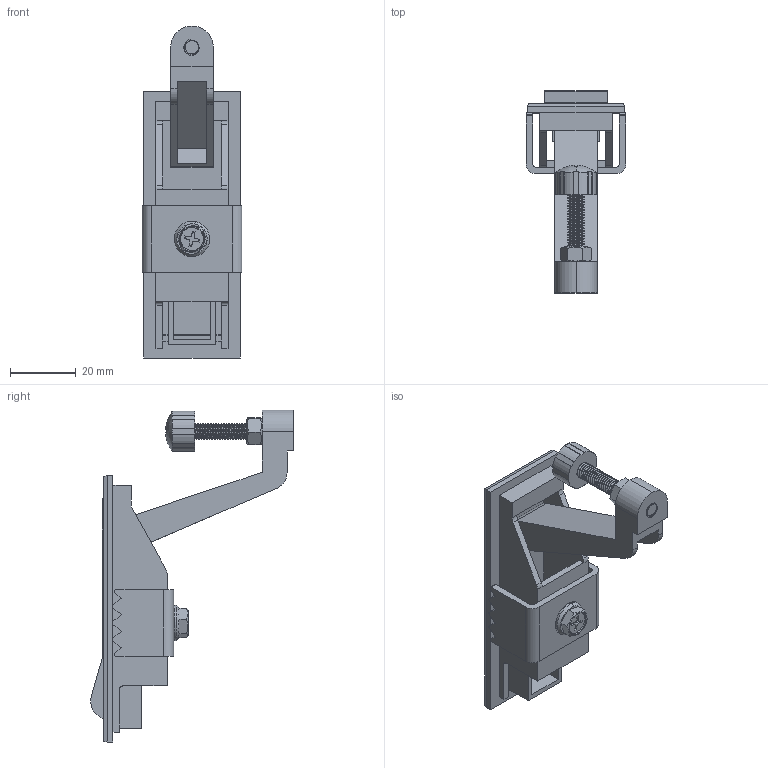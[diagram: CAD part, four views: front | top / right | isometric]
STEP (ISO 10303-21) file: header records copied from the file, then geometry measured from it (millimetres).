
FILE_DESCRIPTION (( 'STEP AP214' ), '1' );
FILE_NAME ('CUYUE.MS708.STEP', '2026-07-14T02:08:46', ( '' ), ( '' ), 'SwSTEP 2.0', 'SolidWorks 2020', '' );
FILE_SCHEMA (( 'AUTOMOTIVE_DESIGN' ));
Length unit declared in the file: millimetre
Products named in the file (6): CUYUE.MS708; M5X8蹟隊; 翋极; 揤裔; hex nuts, style 1-grades ab gb_GB_FASTENER_NUT_SNAB1 M5-N; 蹟隊
Assembly tree (5 placements, depth 2):
  CUYUE.MS708
    翋极
    揤裔
    M5X8蹟隊
    蹟隊
    hex nuts, style 1-grades ab gb_GB_FASTENER_NUT_SNAB1 M5-N
Bounding box: 30.5 x 61.79 x 101.3 mm (x, y, z)
Volume: 22266.9 mm3; surface area: 21096.8 mm2
Topology: 6 solids, 6 shells, 366 faces, 1015 edges, 655 vertices
Faces by surface type: plane 187, cylinder 148, cone 14, torus 8, bspline 7, sphere 2
Entity records: 21020 total; most frequent: CARTESIAN_POINT 11333, ORIENTED_EDGE 2030, DIRECTION 1652, EDGE_CURVE 1015, VERTEX_POINT 655, LINE 592, VECTOR 592, AXIS2_PLACEMENT_3D 530
